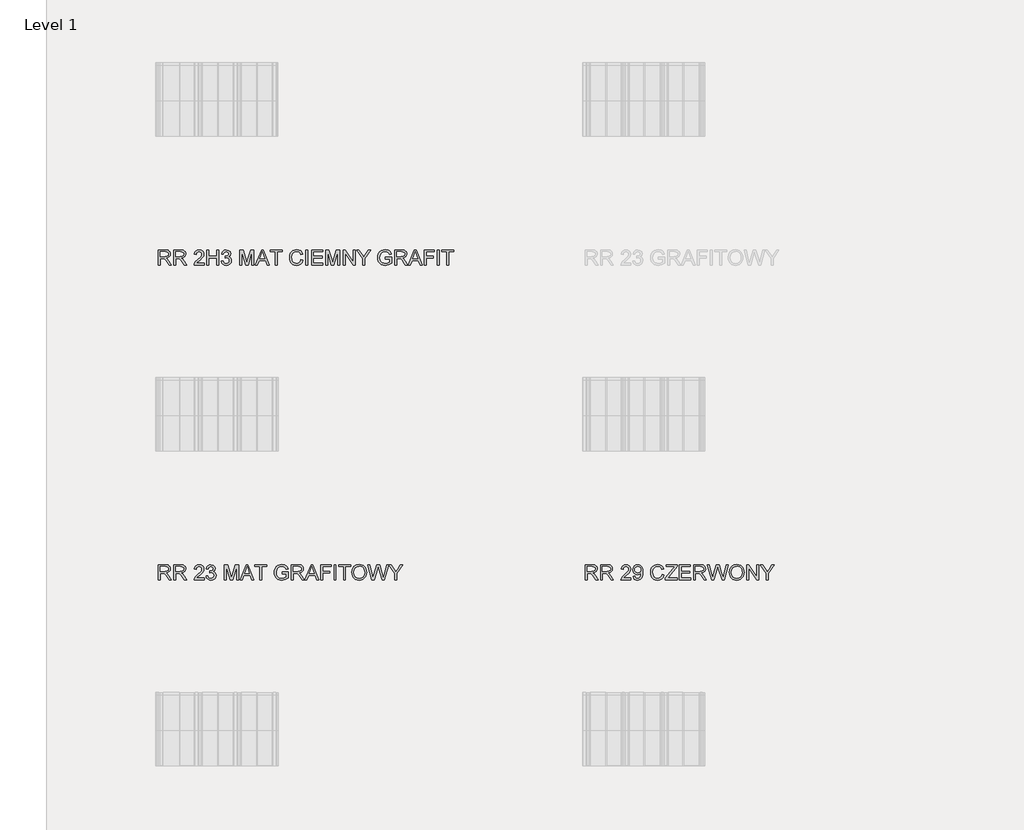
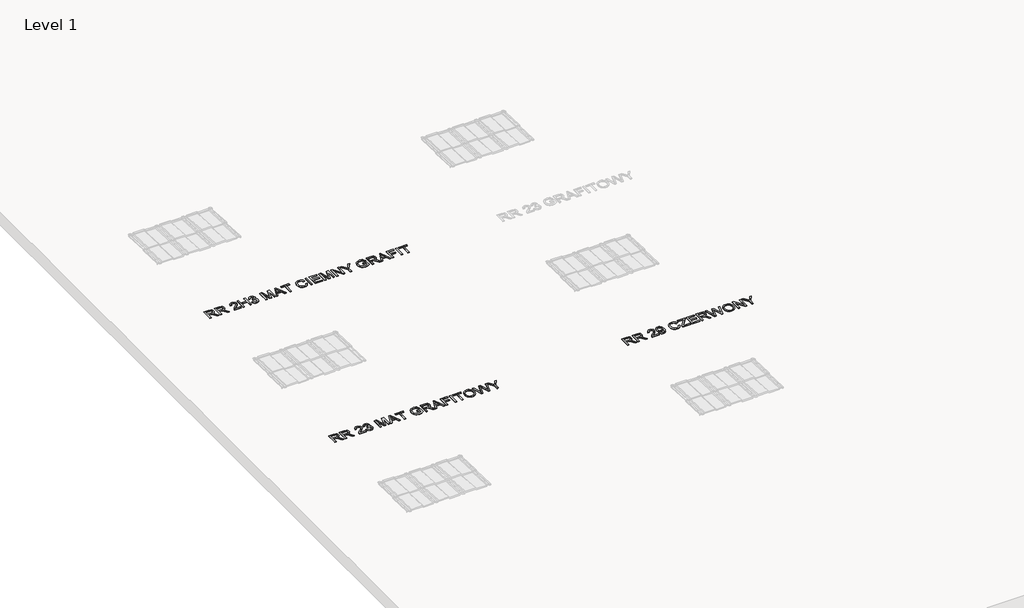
# One storey, part 5 of 10: 3 proxies.
"""IFC4 building model written with IfcOpenShell, lengths in millimetres."""

from ifc_helpers import new_model, si_unit, frame, origin, place, context, project, spatial, polyline, outline, extrude, element, save

model = new_model("IFC4")

# Units and contexts
model_context = context("Model", 3, world=origin())
ifc_project = project(units=[si_unit("LENGTHUNIT", "METRE", prefix="MILLI")], contexts=[model_context])

# Site, building, storey
site = spatial("IfcSite", under=ifc_project)
building = spatial("IfcBuilding", under=site)
storey = spatial("IfcBuildingStorey", under=building, Name="Level 1", Elevation=0.0)

# Proxies
placement = place(None, origin())
element("IfcBuildingElementProxy", 1, Name="150 Blue", ObjectType="150 Blue", at=placement, inside=storey, context=model_context, shape_type="SweptSolid", body=[
    extrude(outline(polyline([(-8736.4118342, -1635.6514112), (-8736.4118342, -1484.966946), (-8671.4806621, -1484.966946), (-8641.3327325, -1489.032042), (-8632.0529092, -1494.6606365), (-8624.8516192, -1503.416228), (-8620.2301016, -1514.2733454), (-8618.6895957, -1526.2065176), (-8621.2417771, -1541.0505561), (-8628.8983211, -1553.3562089), (-8641.8891541, -1562.3785148), (-8660.4442022, -1567.3725129), (-8649.7388361, -1575.4291286), (-8634.4717333, -1594.8165097), (-8609.3453931, -1635.6514112), (-8631.2343718, -1635.6514112), (-8650.8424821, -1604.4182298), (-8665.0059389, -1583.7432617), (-8674.9571469, -1573.9759947), (-8683.9150735, -1570.3891452), (-8694.8411687, -1569.7269577), (-8717.576276, -1569.7269577), (-8717.576276, -1635.6514112), (-8736.4118342, -1635.6514112)]), holes=[polyline([(-8717.576276, -1550.8913995), (-8675.4169994, -1550.8913995), (-8653.9142968, -1548.224255), (-8641.7006145, -1539.6893927), (-8637.5251539, -1526.9054934), (-8639.5163152, -1517.7176406), (-8645.4897991, -1510.3140154), (-8655.7675023, -1505.4303819), (-8670.6713217, -1503.8025041), (-8717.576276, -1503.8025041), (-8717.576276, -1550.8913995)])]), frame((0.0, 0.0, 600.0), z_axis=(0.0, 0.0, 1.0), x_axis=(1.0, 0.0, 0.0)), (0.0, 0.0, 1.0), 10.0),
    extrude(outline(polyline([(-8585.727369, -1635.6514112), (-8585.727369, -1484.966946), (-8520.7961968, -1484.966946), (-8490.6482673, -1489.032042), (-8481.368444, -1494.6606365), (-8474.1671539, -1503.416228), (-8469.5456364, -1514.2733454), (-8468.0051305, -1526.2065176), (-8470.5573119, -1541.0505561), (-8478.2138559, -1553.3562089), (-8491.2046888, -1562.3785148), (-8509.759737, -1567.3725129), (-8499.0543709, -1575.4291286), (-8483.7872681, -1594.8165097), (-8458.6609278, -1635.6514112), (-8480.5499066, -1635.6514112), (-8500.1580169, -1604.4182298), (-8514.3214737, -1583.7432617), (-8524.2726817, -1573.9759947), (-8533.2306083, -1570.3891452), (-8544.1567035, -1569.7269577), (-8566.8918108, -1569.7269577), (-8566.8918108, -1635.6514112), (-8585.727369, -1635.6514112)]), holes=[polyline([(-8566.8918108, -1550.8913995), (-8524.7325342, -1550.8913995), (-8503.2298316, -1548.224255), (-8491.0161493, -1539.6893927), (-8486.8406887, -1526.9054934), (-8488.83185, -1517.7176406), (-8494.8053339, -1510.3140154), (-8505.0830371, -1505.4303819), (-8519.9868564, -1503.8025041), (-8566.8918108, -1503.8025041), (-8566.8918108, -1550.8913995)])]), frame((0.0, 0.0, 600.0), z_axis=(0.0, 0.0, 1.0), x_axis=(1.0, 0.0, 0.0)), (0.0, 0.0, 1.0), 10.0),
    extrude(outline(polyline([(-8286.7128833, -1616.815853), (-8286.7128833, -1635.6514112), (-8385.5995636, -1635.6514112), (-8383.5762126, -1622.6651768), (-8372.1166885, -1602.6707903), (-8348.5170585, -1580.8369939), (-8316.0146842, -1549.4566597), (-8309.9308357, -1538.6409291), (-8307.9028862, -1528.119504), (-8309.8204711, -1518.6879293), (-8315.5732258, -1510.8474443), (-8324.4161893, -1505.5637392), (-8335.6044005, -1503.8025041), (-8347.3536317, -1505.5223524), (-8356.4817037, -1510.6818974), (-8362.3724141, -1518.8764689), (-8364.4095607, -1529.7013966), (-8383.2451188, -1527.3469518), (-8378.6787836, -1509.127596), (-8368.8057505, -1495.8194648), (-8354.1410545, -1487.6800757), (-8335.1997303, -1484.966946), (-8316.1204503, -1487.9835783), (-8301.4833454, -1497.0334754), (-8292.1713324, -1510.5531387), (-8289.0673281, -1526.9790698), (-8292.4150542, -1544.8397407), (-8303.5434846, -1563.3074168), (-8330.5276289, -1589.1143388), (-8352.1958784, -1607.2325271), (-8360.6939525, -1616.815853), (-8286.7128833, -1616.815853)])), frame((0.0, 0.0, 600.0), z_axis=(0.0, 0.0, 1.0), x_axis=(1.0, 0.0, 0.0)), (0.0, 0.0, 1.0), 10.0),
    extrude(outline(polyline([(-8260.8139908, -1635.6514112), (-8260.8139908, -1484.966946), (-8241.9784327, -1484.966946), (-8241.9784327, -1546.18251), (-8161.9273105, -1546.18251), (-8161.9273105, -1484.966946), (-8143.0917524, -1484.966946), (-8143.0917524, -1635.6514112), (-8161.9273105, -1635.6514112), (-8161.9273105, -1565.0180681), (-8241.9784327, -1565.0180681), (-8241.9784327, -1635.6514112), (-8260.8139908, -1635.6514112)])), frame((0.0, 0.0, 600.0), z_axis=(0.0, 0.0, 1.0), x_axis=(1.0, 0.0, 0.0)), (0.0, 0.0, 1.0), 10.0),
    extrude(outline(polyline([(-8117.1928599, -1595.6258501), (-8098.3573018, -1593.2714053), (-8094.1404544, -1605.1080085), (-8087.9646354, -1613.1002449), (-8079.5263421, -1617.6527846), (-8068.522072, -1619.1702978), (-8055.6094139, -1617.0825675), (-8045.6398119, -1610.8193765), (-8039.2662563, -1601.4751738), (-8037.1417378, -1590.1444084), (-8039.2478622, -1579.3884586), (-8045.5662355, -1570.6650567), (-8055.1311673, -1564.8847109), (-8066.9769676, -1562.9579289), (-8080.1839312, -1565.0180681), (-8078.0870038, -1546.18251), (-8075.0703715, -1546.4032392), (-8053.6964276, -1540.9953738), (-8046.5779109, -1534.1343746), (-8044.2050721, -1524.3671076), (-8045.9249204, -1516.232317), (-8051.0844654, -1509.6334337), (-8058.9571401, -1505.2602365), (-8068.8163776, -1503.8025041), (-8078.6940091, -1505.2740321), (-8086.7690189, -1509.688616), (-8092.6643279, -1517.0462559), (-8096.002857, -1527.3469518), (-8114.8384152, -1524.992507), (-8109.2925941, -1508.0791323), (-8099.4241596, -1495.4515828), (-8085.9228903, -1487.5881052), (-8069.4785651, -1484.966946), (-8046.7618519, -1490.135688), (-8030.8693498, -1504.2623566), (-8025.3695139, -1523.2634617), (-8030.5934383, -1540.6274918), (-8046.0444821, -1553.0986915), (-8034.2538641, -1557.8627633), (-8025.5166667, -1565.9745613), (-8020.1088014, -1576.9926271), (-8018.3061796, -1590.4755022), (-8021.9114232, -1608.8328137), (-8032.7271538, -1624.1734929), (-8049.0519174, -1634.5477652), (-8069.1842596, -1638.005856), (-8087.3944183, -1635.0536029), (-8102.2200627, -1626.1968439), (-8112.5299556, -1612.6495894), (-8117.1928599, -1595.6258501)])), frame((0.0, 0.0, 600.0), z_axis=(0.0, 0.0, 1.0), x_axis=(1.0, 0.0, 0.0)), (0.0, 0.0, 1.0), 10.0),
    extrude(outline(polyline([(-7935.9006127, -1635.6514112), (-7935.9006127, -1484.966946), (-7903.6005735, -1484.966946), (-7872.6984859, -1591.174478), (-7866.444492, -1613.3577623), (-7859.7122515, -1589.335068), (-7829.3987751, -1484.966946), (-7796.9883713, -1484.966946), (-7796.9883713, -1635.6514112), (-7815.8239295, -1635.6514112), (-7815.8239295, -1503.8025041), (-7853.6789868, -1635.6514112), (-7879.173209, -1635.6514112), (-7917.0650545, -1503.8025041), (-7917.0650545, -1635.6514112), (-7935.9006127, -1635.6514112)])), frame((0.0, 0.0, 600.0), z_axis=(0.0, 0.0, 1.0), x_axis=(1.0, 0.0, 0.0)), (0.0, 0.0, 1.0), 10.0),
    extrude(outline(polyline([(-7781.5373275, -1635.6514112), (-7721.3886213, -1484.966946), (-7705.3489663, -1484.966946), (-7645.2370483, -1635.6514112), (-7665.1394642, -1635.6514112), (-7682.3563416, -1588.5625158), (-7744.4548224, -1588.5625158), (-7761.6716998, -1635.6514112), (-7781.5373275, -1635.6514112)]), holes=[polyline([(-7737.5386409, -1569.7269577), (-7689.2357349, -1569.7269577), (-7702.8473688, -1532.6812407), (-7713.405582, -1503.8025041), (-7722.7865729, -1529.4438792), (-7737.5386409, -1569.7269577)])]), frame((0.0, 0.0, 600.0), z_axis=(0.0, 0.0, 1.0), x_axis=(1.0, 0.0, 0.0)), (0.0, 0.0, 1.0), 10.0),
    extrude(outline(polyline([(-7587.4427869, -1635.6514112), (-7587.4427869, -1503.8025041), (-7636.886127, -1503.8025041), (-7636.886127, -1484.966946), (-7519.1638886, -1484.966946), (-7519.1638886, -1503.8025041), (-7568.6072287, -1503.8025041), (-7568.6072287, -1635.6514112), (-7587.4427869, -1635.6514112)])), frame((0.0, 0.0, 600.0), z_axis=(0.0, 0.0, 1.0), x_axis=(1.0, 0.0, 0.0)), (0.0, 0.0, 1.0), 10.0),
    extrude(outline(polyline([(-7333.1627518, -1582.0877927), (-7314.3271936, -1586.943835), (-7323.0184058, -1608.8925946), (-7336.6576308, -1624.927651), (-7354.5734839, -1634.7363047), (-7376.0945806, -1638.005856), (-7397.9421726, -1635.5318495), (-7415.2924072, -1628.1098303), (-7428.5913413, -1615.9973156), (-7438.2850319, -1599.4518229), (-7444.2033335, -1580.0000624), (-7446.1761007, -1559.1687444), (-7443.9458161, -1537.1969922), (-7437.2549623, -1518.2234783), (-7426.4530273, -1502.8506095), (-7411.8894988, -1491.6807924), (-7394.6174391, -1484.879574), (-7375.6899104, -1482.6125012), (-7355.0379349, -1485.5463601), (-7337.9636118, -1494.3479368), (-7325.00037, -1508.4746055), (-7316.6816384, -1527.38374), (-7335.5171966, -1531.8719003), (-7342.047102, -1518.1361064), (-7350.9682404, -1508.7137288), (-7362.3909763, -1503.2644767), (-7376.4256744, -1501.4480593), (-7392.6032852, -1503.4622133), (-7405.8930222, -1509.504675), (-7415.9775874, -1518.9408482), (-7422.5396825, -1531.1361364), (-7427.3405426, -1559.1319562), (-7425.9195984, -1576.5327746), (-7421.6567657, -1591.5791482), (-7414.3910963, -1603.6962614), (-7403.9616418, -1612.3092986), (-7391.4582525, -1617.455048), (-7377.9707788, -1619.1702978), (-7362.248422, -1616.8342471), (-7349.1472245, -1609.8260951), (-7339.2557973, -1598.2194182), (-7333.1627518, -1582.0877927)])), frame((0.0, 0.0, 600.0), z_axis=(0.0, 0.0, 1.0), x_axis=(1.0, 0.0, 0.0)), (0.0, 0.0, 1.0), 10.0),
    extrude(outline(polyline([(-7286.0738564, -1635.6514112), (-7286.0738564, -1484.966946), (-7267.2382983, -1484.966946), (-7267.2382983, -1635.6514112), (-7286.0738564, -1635.6514112)])), frame((0.0, 0.0, 600.0), z_axis=(0.0, 0.0, 1.0), x_axis=(1.0, 0.0, 0.0)), (0.0, 0.0, 1.0), 10.0),
    extrude(outline(polyline([(-7229.567182, -1635.6514112), (-7229.567182, -1484.966946), (-7121.2627226, -1484.966946), (-7121.2627226, -1503.8025041), (-7210.7316238, -1503.8025041), (-7210.7316238, -1548.5369547), (-7125.9716121, -1548.5369547), (-7125.9716121, -1567.3725129), (-7210.7316238, -1567.3725129), (-7210.7316238, -1616.815853), (-7118.9082778, -1616.815853), (-7118.9082778, -1635.6514112), (-7229.567182, -1635.6514112)])), frame((0.0, 0.0, 600.0), z_axis=(0.0, 0.0, 1.0), x_axis=(1.0, 0.0, 0.0)), (0.0, 0.0, 1.0), 10.0),
    extrude(outline(polyline([(-7090.6549406, -1635.6514112), (-7090.6549406, -1484.966946), (-7058.3549014, -1484.966946), (-7027.4528138, -1591.174478), (-7021.1988199, -1613.3577623), (-7014.4665794, -1589.335068), (-6984.153103, -1484.966946), (-6951.7426992, -1484.966946), (-6951.7426992, -1635.6514112), (-6970.5782574, -1635.6514112), (-6970.5782574, -1503.8025041), (-7008.4333147, -1635.6514112), (-7033.9275369, -1635.6514112), (-7071.8193824, -1503.8025041), (-7071.8193824, -1635.6514112), (-7090.6549406, -1635.6514112)])), frame((0.0, 0.0, 600.0), z_axis=(0.0, 0.0, 1.0), x_axis=(1.0, 0.0, 0.0)), (0.0, 0.0, 1.0), 10.0),
    extrude(outline(polyline([(-6918.7804724, -1635.6514112), (-6918.7804724, -1484.966946), (-6898.6205391, -1484.966946), (-6819.8937921, -1604.3446534), (-6819.8937921, -1484.966946), (-6801.058234, -1484.966946), (-6801.058234, -1635.6514112), (-6821.2181673, -1635.6514112), (-6899.9449143, -1516.2369156), (-6899.9449143, -1635.6514112), (-6918.7804724, -1635.6514112)])), frame((0.0, 0.0, 600.0), z_axis=(0.0, 0.0, 1.0), x_axis=(1.0, 0.0, 0.0)), (0.0, 0.0, 1.0), 10.0),
    extrude(outline(polyline([(-6725.7160014, -1635.6514112), (-6725.7160014, -1571.823885), (-6784.5771206, -1484.966946), (-6762.3938363, -1484.966946), (-6730.9767139, -1531.3568656), (-6714.9002707, -1555.048466), (-6698.7502511, -1529.6646084), (-6670.2393965, -1484.966946), (-6648.019324, -1484.966946), (-6706.8804432, -1571.823885), (-6706.8804432, -1635.6514112), (-6725.7160014, -1635.6514112)])), frame((0.0, 0.0, 600.0), z_axis=(0.0, 0.0, 1.0), x_axis=(1.0, 0.0, 0.0)), (0.0, 0.0, 1.0), 10.0),
    extrude(outline(polyline([(-6502.0437483, -1576.790292), (-6502.0437483, -1557.9547338), (-6440.8281843, -1557.9547338), (-6440.8281843, -1614.2774673), (-6471.0496902, -1632.0461676), (-6503.0002415, -1638.005856), (-6524.1304636, -1635.6376156), (-6543.2281377, -1628.5328946), (-6559.0930487, -1616.9400132), (-6570.5249817, -1601.1072918), (-6577.4365647, -1582.1153838), (-6579.7404257, -1561.0449426), (-6577.4457617, -1539.82275), (-6570.5617699, -1520.0812824), (-6559.3735587, -1503.5219941), (-6544.1662367, -1491.8463393), (-6525.6433783, -1484.9209607), (-6504.5085577, -1482.6125012), (-6475.0412099, -1487.9651842), (-6463.2919786, -1494.3663309), (-6454.3846358, -1502.864405), (-6442.9986881, -1527.7884102), (-6460.3627182, -1532.6812407), (-6468.9527628, -1515.2620283), (-6483.6312544, -1505.2188498), (-6504.8028633, -1501.4480593), (-6528.917528, -1505.5131554), (-6545.325065, -1516.1817333), (-6555.0187556, -1530.694678), (-6560.9048675, -1560.2723904), (-6559.1344354, -1578.2848126), (-6553.8231391, -1593.1058584), (-6545.131927, -1604.6297619), (-6533.2217474, -1612.750757), (-6519.2836183, -1617.5654126), (-6504.5085577, -1619.1702978), (-6478.7384239, -1614.3326496), (-6459.6637425, -1604.0135596), (-6459.6637425, -1576.790292), (-6502.0437483, -1576.790292)])), frame((0.0, 0.0, 600.0), z_axis=(0.0, 0.0, 1.0), x_axis=(1.0, 0.0, 0.0)), (0.0, 0.0, 1.0), 10.0),
    extrude(outline(polyline([(-6410.2204023, -1635.6514112), (-6410.2204023, -1484.966946), (-6345.2892302, -1484.966946), (-6315.1413006, -1489.032042), (-6305.8614773, -1494.6606365), (-6298.6601873, -1503.416228), (-6294.0386697, -1514.2733454), (-6292.4981638, -1526.2065176), (-6295.0503452, -1541.0505561), (-6302.7068892, -1553.3562089), (-6315.6977222, -1562.3785148), (-6334.2527703, -1567.3725129), (-6323.5474042, -1575.4291286), (-6308.2803014, -1594.8165097), (-6283.1539612, -1635.6514112), (-6305.0429399, -1635.6514112), (-6324.6510502, -1604.4182298), (-6338.814507, -1583.7432617), (-6348.765715, -1573.9759947), (-6357.7236416, -1570.3891452), (-6368.6497368, -1569.7269577), (-6391.3848441, -1569.7269577), (-6391.3848441, -1635.6514112), (-6410.2204023, -1635.6514112)]), holes=[polyline([(-6391.3848441, -1550.8913995), (-6349.2255675, -1550.8913995), (-6327.7228649, -1548.224255), (-6315.5091826, -1539.6893927), (-6311.333722, -1526.9054934), (-6313.3248833, -1517.7176406), (-6319.2983672, -1510.3140154), (-6329.5760704, -1505.4303819), (-6344.4798898, -1503.8025041), (-6391.3848441, -1503.8025041), (-6391.3848441, -1550.8913995)])]), frame((0.0, 0.0, 600.0), z_axis=(0.0, 0.0, 1.0), x_axis=(1.0, 0.0, 0.0)), (0.0, 0.0, 1.0), 10.0),
    extrude(outline(polyline([(-6277.04712, -1635.6514112), (-6216.8984138, -1484.966946), (-6200.8587588, -1484.966946), (-6140.7468408, -1635.6514112), (-6160.6492568, -1635.6514112), (-6177.8661341, -1588.5625158), (-6239.9646149, -1588.5625158), (-6257.1814923, -1635.6514112), (-6277.04712, -1635.6514112)]), holes=[polyline([(-6233.0484334, -1569.7269577), (-6184.7455275, -1569.7269577), (-6198.3571613, -1532.6812407), (-6208.9153745, -1503.8025041), (-6218.2963654, -1529.4438792), (-6233.0484334, -1569.7269577)])]), frame((0.0, 0.0, 600.0), z_axis=(0.0, 0.0, 1.0), x_axis=(1.0, 0.0, 0.0)), (0.0, 0.0, 1.0), 10.0),
    extrude(outline(polyline([(-6120.6236957, -1635.6514112), (-6120.6236957, -1484.966946), (-6019.3825706, -1484.966946), (-6019.3825706, -1503.8025041), (-6101.7881375, -1503.8025041), (-6101.7881375, -1548.5369547), (-6031.1547945, -1548.5369547), (-6031.1547945, -1567.3725129), (-6101.7881375, -1567.3725129), (-6101.7881375, -1635.6514112), (-6120.6236957, -1635.6514112)])), frame((0.0, 0.0, 600.0), z_axis=(0.0, 0.0, 1.0), x_axis=(1.0, 0.0, 0.0)), (0.0, 0.0, 1.0), 10.0),
    extrude(outline(polyline([(-5991.1292334, -1635.6514112), (-5991.1292334, -1484.966946), (-5972.2936752, -1484.966946), (-5972.2936752, -1635.6514112), (-5991.1292334, -1635.6514112)])), frame((0.0, 0.0, 600.0), z_axis=(0.0, 0.0, 1.0), x_axis=(1.0, 0.0, 0.0)), (0.0, 0.0, 1.0), 10.0),
    extrude(outline(polyline([(-5896.9514426, -1635.6514112), (-5896.9514426, -1503.8025041), (-5946.3947828, -1503.8025041), (-5946.3947828, -1484.966946), (-5828.6725443, -1484.966946), (-5828.6725443, -1503.8025041), (-5878.1158845, -1503.8025041), (-5878.1158845, -1635.6514112), (-5896.9514426, -1635.6514112)])), frame((0.0, 0.0, 600.0), z_axis=(0.0, 0.0, 1.0), x_axis=(1.0, 0.0, 0.0)), (0.0, 0.0, 1.0), 10.0),
])
element("IfcBuildingElementProxy", 2, Name="150 Blue", ObjectType="150 Blue", at=placement, inside=storey, context=model_context, shape_type="SweptSolid", body=[
    extrude(outline(polyline([(-8736.4118342, -4735.6514112), (-8736.4118342, -4584.966946), (-8671.4806621, -4584.966946), (-8641.3327325, -4589.032042), (-8632.0529092, -4594.6606365), (-8624.8516192, -4603.416228), (-8620.2301016, -4614.2733454), (-8618.6895957, -4626.2065176), (-8621.2417771, -4641.0505561), (-8628.8983211, -4653.3562089), (-8641.8891541, -4662.3785148), (-8660.4442022, -4667.3725129), (-8649.7388361, -4675.4291286), (-8634.4717333, -4694.8165097), (-8609.3453931, -4735.6514112), (-8631.2343718, -4735.6514112), (-8650.8424821, -4704.4182298), (-8665.0059389, -4683.7432617), (-8674.9571469, -4673.9759947), (-8683.9150735, -4670.3891452), (-8694.8411687, -4669.7269577), (-8717.576276, -4669.7269577), (-8717.576276, -4735.6514112), (-8736.4118342, -4735.6514112)]), holes=[polyline([(-8717.576276, -4650.8913995), (-8675.4169994, -4650.8913995), (-8653.9142968, -4648.224255), (-8641.7006145, -4639.6893927), (-8637.5251539, -4626.9054934), (-8639.5163152, -4617.7176406), (-8645.4897991, -4610.3140154), (-8655.7675023, -4605.4303819), (-8670.6713217, -4603.8025041), (-8717.576276, -4603.8025041), (-8717.576276, -4650.8913995)])]), frame((0.0, 0.0, 600.0), z_axis=(0.0, 0.0, 1.0), x_axis=(1.0, 0.0, 0.0)), (0.0, 0.0, 1.0), 10.0),
    extrude(outline(polyline([(-8585.727369, -4735.6514112), (-8585.727369, -4584.966946), (-8520.7961968, -4584.966946), (-8490.6482673, -4589.032042), (-8481.368444, -4594.6606365), (-8474.1671539, -4603.416228), (-8469.5456364, -4614.2733454), (-8468.0051305, -4626.2065176), (-8470.5573119, -4641.0505561), (-8478.2138559, -4653.3562089), (-8491.2046888, -4662.3785148), (-8509.759737, -4667.3725129), (-8499.0543709, -4675.4291286), (-8483.7872681, -4694.8165097), (-8458.6609278, -4735.6514112), (-8480.5499066, -4735.6514112), (-8500.1580169, -4704.4182298), (-8514.3214737, -4683.7432617), (-8524.2726817, -4673.9759947), (-8533.2306083, -4670.3891452), (-8544.1567035, -4669.7269577), (-8566.8918108, -4669.7269577), (-8566.8918108, -4735.6514112), (-8585.727369, -4735.6514112)]), holes=[polyline([(-8566.8918108, -4650.8913995), (-8524.7325342, -4650.8913995), (-8503.2298316, -4648.224255), (-8491.0161493, -4639.6893927), (-8486.8406887, -4626.9054934), (-8488.83185, -4617.7176406), (-8494.8053339, -4610.3140154), (-8505.0830371, -4605.4303819), (-8519.9868564, -4603.8025041), (-8566.8918108, -4603.8025041), (-8566.8918108, -4650.8913995)])]), frame((0.0, 0.0, 600.0), z_axis=(0.0, 0.0, 1.0), x_axis=(1.0, 0.0, 0.0)), (0.0, 0.0, 1.0), 10.0),
    extrude(outline(polyline([(-8286.7128833, -4716.815853), (-8286.7128833, -4735.6514112), (-8385.5995636, -4735.6514112), (-8383.5762126, -4722.6651768), (-8372.1166885, -4702.6707903), (-8348.5170585, -4680.8369939), (-8316.0146842, -4649.4566597), (-8309.9308357, -4638.6409291), (-8307.9028862, -4628.119504), (-8309.8204711, -4618.6879293), (-8315.5732258, -4610.8474443), (-8324.4161893, -4605.5637392), (-8335.6044005, -4603.8025041), (-8347.3536317, -4605.5223524), (-8356.4817037, -4610.6818974), (-8362.3724141, -4618.8764689), (-8364.4095607, -4629.7013966), (-8383.2451188, -4627.3469518), (-8378.6787836, -4609.127596), (-8368.8057505, -4595.8194648), (-8354.1410545, -4587.6800757), (-8335.1997303, -4584.966946), (-8316.1204503, -4587.9835783), (-8301.4833454, -4597.0334754), (-8292.1713324, -4610.5531387), (-8289.0673281, -4626.9790698), (-8292.4150542, -4644.8397407), (-8303.5434846, -4663.3074168), (-8330.5276289, -4689.1143388), (-8352.1958784, -4707.2325271), (-8360.6939525, -4716.815853), (-8286.7128833, -4716.815853)])), frame((0.0, 0.0, 600.0), z_axis=(0.0, 0.0, 1.0), x_axis=(1.0, 0.0, 0.0)), (0.0, 0.0, 1.0), 10.0),
    extrude(outline(polyline([(-8267.8773251, -4695.6258501), (-8249.041767, -4693.2714053), (-8244.8249196, -4705.1080085), (-8238.6491006, -4713.1002449), (-8230.2108074, -4717.6527846), (-8219.2065372, -4719.1702978), (-8206.2938792, -4717.0825675), (-8196.3242771, -4710.8193765), (-8189.9507215, -4701.4751738), (-8187.826203, -4690.1444084), (-8189.9323274, -4679.3884586), (-8196.2507007, -4670.6650567), (-8205.8156326, -4664.8847109), (-8217.6614328, -4662.9579289), (-8230.8683964, -4665.0180681), (-8228.7714691, -4646.18251), (-8225.7548367, -4646.4032392), (-8204.3808928, -4640.9953738), (-8197.2623762, -4634.1343746), (-8194.8895373, -4624.3671076), (-8196.6093856, -4616.232317), (-8201.7689306, -4609.6334337), (-8209.6416053, -4605.2602365), (-8219.5008428, -4603.8025041), (-8229.3784744, -4605.2740321), (-8237.4534841, -4609.688616), (-8243.3487931, -4617.0462559), (-8246.6873222, -4627.3469518), (-8265.5228804, -4624.992507), (-8259.9770593, -4608.0791323), (-8250.1086248, -4595.4515828), (-8236.6073556, -4587.5881052), (-8220.1630304, -4584.966946), (-8197.4463172, -4590.135688), (-8181.553815, -4604.2623566), (-8176.0539791, -4623.2634617), (-8181.2779035, -4640.6274918), (-8196.7289473, -4653.0986915), (-8184.9383293, -4657.8627633), (-8176.2011319, -4665.9745613), (-8170.7932666, -4676.9926271), (-8168.9906448, -4690.4755022), (-8172.5958884, -4708.8328137), (-8183.4116191, -4724.1734929), (-8199.7363826, -4734.5477652), (-8219.8687248, -4738.005856), (-8238.0788835, -4735.0536029), (-8252.9045279, -4726.1968439), (-8263.2144209, -4712.6495894), (-8267.8773251, -4695.6258501)])), frame((0.0, 0.0, 600.0), z_axis=(0.0, 0.0, 1.0), x_axis=(1.0, 0.0, 0.0)), (0.0, 0.0, 1.0), 10.0),
    extrude(outline(polyline([(-8086.5850779, -4735.6514112), (-8086.5850779, -4584.966946), (-8054.2850387, -4584.966946), (-8023.3829512, -4691.174478), (-8017.1289572, -4713.3577623), (-8010.3967167, -4689.335068), (-7980.0832403, -4584.966946), (-7947.6728365, -4584.966946), (-7947.6728365, -4735.6514112), (-7966.5083947, -4735.6514112), (-7966.5083947, -4603.8025041), (-8004.363452, -4735.6514112), (-8029.8576743, -4735.6514112), (-8067.7495198, -4603.8025041), (-8067.7495198, -4735.6514112), (-8086.5850779, -4735.6514112)])), frame((0.0, 0.0, 600.0), z_axis=(0.0, 0.0, 1.0), x_axis=(1.0, 0.0, 0.0)), (0.0, 0.0, 1.0), 10.0),
    extrude(outline(polyline([(-7932.2217927, -4735.6514112), (-7872.0730865, -4584.966946), (-7856.0334315, -4584.966946), (-7795.9215135, -4735.6514112), (-7815.8239295, -4735.6514112), (-7833.0408068, -4688.5625158), (-7895.1392876, -4688.5625158), (-7912.356165, -4735.6514112), (-7932.2217927, -4735.6514112)]), holes=[polyline([(-7888.2231061, -4669.7269577), (-7839.9202002, -4669.7269577), (-7853.531834, -4632.6812407), (-7864.0900472, -4603.8025041), (-7873.4710381, -4629.4438792), (-7888.2231061, -4669.7269577)])]), frame((0.0, 0.0, 600.0), z_axis=(0.0, 0.0, 1.0), x_axis=(1.0, 0.0, 0.0)), (0.0, 0.0, 1.0), 10.0),
    extrude(outline(polyline([(-7738.1272521, -4735.6514112), (-7738.1272521, -4603.8025041), (-7787.5705922, -4603.8025041), (-7787.5705922, -4584.966946), (-7669.8483538, -4584.966946), (-7669.8483538, -4603.8025041), (-7719.2916939, -4603.8025041), (-7719.2916939, -4735.6514112), (-7738.1272521, -4735.6514112)])), frame((0.0, 0.0, 600.0), z_axis=(0.0, 0.0, 1.0), x_axis=(1.0, 0.0, 0.0)), (0.0, 0.0, 1.0), 10.0),
    extrude(outline(polyline([(-7519.1638886, -4676.790292), (-7519.1638886, -4657.9547338), (-7457.9483246, -4657.9547338), (-7457.9483246, -4714.2774673), (-7488.1698305, -4732.0461676), (-7520.1203817, -4738.005856), (-7541.2506038, -4735.6376156), (-7560.3482779, -4728.5328946), (-7576.213189, -4716.9400132), (-7587.645122, -4701.1072918), (-7594.5567049, -4682.1153838), (-7596.8605659, -4661.0449426), (-7594.565902, -4639.82275), (-7587.6819102, -4620.0812824), (-7576.493699, -4603.5219941), (-7561.286377, -4591.8463393), (-7542.7635186, -4584.9209607), (-7521.6286979, -4582.6125012), (-7492.1613501, -4587.9651842), (-7480.4121189, -4594.3663309), (-7471.5047761, -4602.864405), (-7460.1188283, -4627.7884102), (-7477.4828585, -4632.6812407), (-7486.0729031, -4615.2620283), (-7500.7513947, -4605.2188498), (-7521.9230035, -4601.4480593), (-7546.0376683, -4605.5131554), (-7562.4452053, -4616.1817333), (-7572.1388959, -4630.694678), (-7578.0250078, -4660.2723904), (-7576.2545757, -4678.2848126), (-7570.9432794, -4693.1058584), (-7562.2520672, -4704.6297619), (-7550.3418877, -4712.750757), (-7536.4037586, -4717.5654126), (-7521.6286979, -4719.1702978), (-7495.8585642, -4714.3326496), (-7476.7838827, -4704.0135596), (-7476.7838827, -4676.790292), (-7519.1638886, -4676.790292)])), frame((0.0, 0.0, 600.0), z_axis=(0.0, 0.0, 1.0), x_axis=(1.0, 0.0, 0.0)), (0.0, 0.0, 1.0), 10.0),
    extrude(outline(polyline([(-7427.3405426, -4735.6514112), (-7427.3405426, -4584.966946), (-7362.4093704, -4584.966946), (-7332.2614409, -4589.032042), (-7322.9816176, -4594.6606365), (-7315.7803275, -4603.416228), (-7311.15881, -4614.2733454), (-7309.6183041, -4626.2065176), (-7312.1704855, -4641.0505561), (-7319.8270295, -4653.3562089), (-7332.8178624, -4662.3785148), (-7351.3729106, -4667.3725129), (-7340.6675445, -4675.4291286), (-7325.4004417, -4694.8165097), (-7300.2741014, -4735.6514112), (-7322.1630801, -4735.6514112), (-7341.7711905, -4704.4182298), (-7355.9346473, -4683.7432617), (-7365.8858553, -4673.9759947), (-7374.8437819, -4670.3891452), (-7385.7698771, -4669.7269577), (-7408.5049844, -4669.7269577), (-7408.5049844, -4735.6514112), (-7427.3405426, -4735.6514112)]), holes=[polyline([(-7408.5049844, -4650.8913995), (-7366.3457078, -4650.8913995), (-7344.8430051, -4648.224255), (-7332.6293229, -4639.6893927), (-7328.4538623, -4626.9054934), (-7330.4450236, -4617.7176406), (-7336.4185075, -4610.3140154), (-7346.6962107, -4605.4303819), (-7361.60003, -4603.8025041), (-7408.5049844, -4603.8025041), (-7408.5049844, -4650.8913995)])]), frame((0.0, 0.0, 600.0), z_axis=(0.0, 0.0, 1.0), x_axis=(1.0, 0.0, 0.0)), (0.0, 0.0, 1.0), 10.0),
    extrude(outline(polyline([(-7294.1672603, -4735.6514112), (-7234.0185541, -4584.966946), (-7217.9788991, -4584.966946), (-7157.8669811, -4735.6514112), (-7177.769397, -4735.6514112), (-7194.9862744, -4688.5625158), (-7257.0847552, -4688.5625158), (-7274.3016326, -4735.6514112), (-7294.1672603, -4735.6514112)]), holes=[polyline([(-7250.1685737, -4669.7269577), (-7201.8656677, -4669.7269577), (-7215.4773015, -4632.6812407), (-7226.0355148, -4603.8025041), (-7235.4165057, -4629.4438792), (-7250.1685737, -4669.7269577)])]), frame((0.0, 0.0, 600.0), z_axis=(0.0, 0.0, 1.0), x_axis=(1.0, 0.0, 0.0)), (0.0, 0.0, 1.0), 10.0),
    extrude(outline(polyline([(-7137.743836, -4735.6514112), (-7137.743836, -4584.966946), (-7036.5027109, -4584.966946), (-7036.5027109, -4603.8025041), (-7118.9082778, -4603.8025041), (-7118.9082778, -4648.5369547), (-7048.2749347, -4648.5369547), (-7048.2749347, -4667.3725129), (-7118.9082778, -4667.3725129), (-7118.9082778, -4735.6514112), (-7137.743836, -4735.6514112)])), frame((0.0, 0.0, 600.0), z_axis=(0.0, 0.0, 1.0), x_axis=(1.0, 0.0, 0.0)), (0.0, 0.0, 1.0), 10.0),
    extrude(outline(polyline([(-7008.2493737, -4735.6514112), (-7008.2493737, -4584.966946), (-6989.4138155, -4584.966946), (-6989.4138155, -4735.6514112), (-7008.2493737, -4735.6514112)])), frame((0.0, 0.0, 600.0), z_axis=(0.0, 0.0, 1.0), x_axis=(1.0, 0.0, 0.0)), (0.0, 0.0, 1.0), 10.0),
    extrude(outline(polyline([(-6914.0715829, -4735.6514112), (-6914.0715829, -4603.8025041), (-6963.514923, -4603.8025041), (-6963.514923, -4584.966946), (-6845.7926846, -4584.966946), (-6845.7926846, -4603.8025041), (-6895.2360247, -4603.8025041), (-6895.2360247, -4735.6514112), (-6914.0715829, -4735.6514112)])), frame((0.0, 0.0, 600.0), z_axis=(0.0, 0.0, 1.0), x_axis=(1.0, 0.0, 0.0)), (0.0, 0.0, 1.0), 10.0),
    extrude(outline(polyline([(-6831.666016, -4662.2957413), (-6826.6444267, -4628.9748296), (-6820.3674402, -4615.356298), (-6811.579659, -4603.7657159), (-6788.5778373, -4587.9008049), (-6759.7450859, -4582.6125012), (-6739.9806257, -4585.0957047), (-6722.2579106, -4592.5453151), (-6707.5426308, -4604.4371006), (-6696.8004765, -4620.2468293), (-6690.2337829, -4639.2111462), (-6688.0448851, -4660.566696), (-6690.3487461, -4682.2073543), (-6697.260329, -4701.4383856), (-6708.3979564, -4717.2757055), (-6723.3799507, -4728.7352297), (-6740.9509145, -4735.6881994), (-6759.8554505, -4738.005856), (-6779.9234134, -4735.4444776), (-6797.747296, -4727.7603424), (-6812.4257876, -4715.6478277), (-6823.0575773, -4699.8013108), (-6829.5139063, -4681.5681594), (-6831.666016, -4662.2957413)]), holes=[polyline([(-6812.8304578, -4662.4796823), (-6809.0642659, -4686.0517212), (-6797.7656901, -4704.0135596), (-6780.7833375, -4715.3811133), (-6759.9658151, -4719.1702978), (-6738.8447901, -4715.3443251), (-6721.8348463, -4703.8664068), (-6710.619044, -4685.3527454), (-6706.8804432, -4660.4195432), (-6708.4807299, -4643.7452917), (-6713.2815899, -4629.3335146), (-6721.1588631, -4617.5474952), (-6731.9883894, -4608.750517), (-6745.0527987, -4603.2736737), (-6759.6347213, -4601.4480593), (-6779.8958222, -4604.9659309), (-6797.1218966, -4615.5195457), (-6808.9033175, -4634.295323), (-6812.8304578, -4662.4796823)])]), frame((0.0, 0.0, 600.0), z_axis=(0.0, 0.0, 1.0), x_axis=(1.0, 0.0, 0.0)), (0.0, 0.0, 1.0), 10.0),
    extrude(outline(polyline([(-6635.1802424, -4735.6514112), (-6676.2726612, -4584.966946), (-6656.8484919, -4584.966946), (-6633.0097386, -4684.0007791), (-6625.6520987, -4714.5717729), (-6617.779424, -4687.5324462), (-6587.907406, -4584.966946), (-6559.9115861, -4584.966946), (-6538.2065484, -4659.3158972), (-6522.0565288, -4714.5717729), (-6514.9196181, -4684.8836959), (-6490.8969238, -4584.966946), (-6471.4359663, -4584.966946), (-6512.491597, -4735.6514112), (-6532.6515303, -4735.6514112), (-6568.8143304, -4619.4007007), (-6573.8543138, -4603.1771047), (-6579.5196965, -4622.7116387), (-6612.445135, -4735.6514112), (-6635.1802424, -4735.6514112)])), frame((0.0, 0.0, 600.0), z_axis=(0.0, 0.0, 1.0), x_axis=(1.0, 0.0, 0.0)), (0.0, 0.0, 1.0), 10.0),
    extrude(outline(polyline([(-6410.2204023, -4735.6514112), (-6410.2204023, -4671.823885), (-6469.0815215, -4584.966946), (-6446.8982372, -4584.966946), (-6415.4811148, -4631.3568656), (-6399.4046716, -4655.048466), (-6383.2546521, -4629.6646084), (-6354.7437974, -4584.966946), (-6332.5237249, -4584.966946), (-6391.3848441, -4671.823885), (-6391.3848441, -4735.6514112), (-6410.2204023, -4735.6514112)])), frame((0.0, 0.0, 600.0), z_axis=(0.0, 0.0, 1.0), x_axis=(1.0, 0.0, 0.0)), (0.0, 0.0, 1.0), 10.0),
])
element("IfcBuildingElementProxy", 3, Name="150 Blue", ObjectType="150 Blue", at=placement, inside=storey, context=model_context, shape_type="SweptSolid", body=[
    extrude(outline(polyline([(-4536.4118342, -4735.6514112), (-4536.4118342, -4584.966946), (-4471.4806621, -4584.966946), (-4441.3327325, -4589.032042), (-4432.0529092, -4594.6606365), (-4424.8516192, -4603.416228), (-4420.2301016, -4614.2733454), (-4418.6895957, -4626.2065176), (-4421.2417771, -4641.0505561), (-4428.8983211, -4653.3562089), (-4441.8891541, -4662.3785148), (-4460.4442022, -4667.3725129), (-4449.7388361, -4675.4291286), (-4434.4717333, -4694.8165097), (-4409.3453931, -4735.6514112), (-4431.2343718, -4735.6514112), (-4450.8424821, -4704.4182298), (-4465.0059389, -4683.7432617), (-4474.9571469, -4673.9759947), (-4483.9150735, -4670.3891452), (-4494.8411687, -4669.7269577), (-4517.576276, -4669.7269577), (-4517.576276, -4735.6514112), (-4536.4118342, -4735.6514112)]), holes=[polyline([(-4517.576276, -4650.8913995), (-4475.4169994, -4650.8913995), (-4453.9142968, -4648.224255), (-4441.7006145, -4639.6893927), (-4437.5251539, -4626.9054934), (-4439.5163152, -4617.7176406), (-4445.4897991, -4610.3140154), (-4455.7675023, -4605.4303819), (-4470.6713217, -4603.8025041), (-4517.576276, -4603.8025041), (-4517.576276, -4650.8913995)])]), frame((0.0, 0.0, 600.0), z_axis=(0.0, 0.0, 1.0), x_axis=(1.0, 0.0, 0.0)), (0.0, 0.0, 1.0), 10.0),
    extrude(outline(polyline([(-4385.727369, -4735.6514112), (-4385.727369, -4584.966946), (-4320.7961968, -4584.966946), (-4290.6482673, -4589.032042), (-4281.368444, -4594.6606365), (-4274.1671539, -4603.416228), (-4269.5456364, -4614.2733454), (-4268.0051305, -4626.2065176), (-4270.5573119, -4641.0505561), (-4278.2138559, -4653.3562089), (-4291.2046888, -4662.3785148), (-4309.759737, -4667.3725129), (-4299.0543709, -4675.4291286), (-4283.7872681, -4694.8165097), (-4258.6609278, -4735.6514112), (-4280.5499066, -4735.6514112), (-4300.1580169, -4704.4182298), (-4314.3214737, -4683.7432617), (-4324.2726817, -4673.9759947), (-4333.2306083, -4670.3891452), (-4344.1567035, -4669.7269577), (-4366.8918108, -4669.7269577), (-4366.8918108, -4735.6514112), (-4385.727369, -4735.6514112)]), holes=[polyline([(-4366.8918108, -4650.8913995), (-4324.7325342, -4650.8913995), (-4303.2298316, -4648.224255), (-4291.0161493, -4639.6893927), (-4286.8406887, -4626.9054934), (-4288.83185, -4617.7176406), (-4294.8053339, -4610.3140154), (-4305.0830371, -4605.4303819), (-4319.9868564, -4603.8025041), (-4366.8918108, -4603.8025041), (-4366.8918108, -4650.8913995)])]), frame((0.0, 0.0, 600.0), z_axis=(0.0, 0.0, 1.0), x_axis=(1.0, 0.0, 0.0)), (0.0, 0.0, 1.0), 10.0),
    extrude(outline(polyline([(-4086.7128833, -4716.815853), (-4086.7128833, -4735.6514112), (-4185.5995636, -4735.6514112), (-4183.5762126, -4722.6651768), (-4172.1166885, -4702.6707903), (-4148.5170585, -4680.8369939), (-4116.0146842, -4649.4566597), (-4109.9308357, -4638.6409291), (-4107.9028862, -4628.119504), (-4109.8204711, -4618.6879293), (-4115.5732258, -4610.8474443), (-4124.4161893, -4605.5637392), (-4135.6044005, -4603.8025041), (-4147.3536317, -4605.5223524), (-4156.4817037, -4610.6818974), (-4162.3724141, -4618.8764689), (-4164.4095607, -4629.7013966), (-4183.2451188, -4627.3469518), (-4178.6787836, -4609.127596), (-4168.8057505, -4595.8194648), (-4154.1410545, -4587.6800757), (-4135.1997303, -4584.966946), (-4116.1204503, -4587.9835783), (-4101.4833454, -4597.0334754), (-4092.1713324, -4610.5531387), (-4089.0673281, -4626.9790698), (-4092.4150542, -4644.8397407), (-4103.5434846, -4663.3074168), (-4130.5276289, -4689.1143388), (-4152.1958784, -4707.2325271), (-4160.6939525, -4716.815853), (-4086.7128833, -4716.815853)])), frame((0.0, 0.0, 600.0), z_axis=(0.0, 0.0, 1.0), x_axis=(1.0, 0.0, 0.0)), (0.0, 0.0, 1.0), 10.0),
    extrude(outline(polyline([(-4065.5228804, -4697.9802949), (-4046.6873222, -4695.6258501), (-4043.4683548, -4706.3174206), (-4038.2260363, -4713.5968856), (-4031.0891256, -4717.7769447), (-4022.1863813, -4719.1702978), (-4006.9376726, -4715.5834484), (-3996.6001886, -4706.0001224), (-3990.4381652, -4689.6293736), (-3987.7158384, -4667.7771831), (-3987.826203, -4664.0983631), (-4002.8909707, -4678.3721845), (-4023.5475447, -4683.8536263), (-4040.7230354, -4680.5059001), (-4055.0198494, -4670.4627216), (-4064.6629562, -4654.9472985), (-4067.8773251, -4635.1828383), (-4064.5066064, -4614.7653876), (-4054.39445, -4598.7625208), (-4039.2055221, -4588.4158397), (-4020.6044888, -4584.966946), (-4006.5559951, -4586.9351146), (-3993.7674972, -4592.8396207), (-3983.0713282, -4602.3861584), (-3975.2998211, -4615.2804224), (-3970.5679389, -4633.104305), (-3968.9906448, -4657.439699), (-3970.5633404, -4683.2420225), (-3975.281427, -4703.1858251), (-3983.1035179, -4718.1724179), (-3993.9882264, -4729.1031117), (-4007.466503, -4735.7801699), (-4023.0692981, -4738.005856), (-4039.1733325, -4735.3800982), (-4052.0216112, -4727.502825), (-4061.0071289, -4714.870677), (-4065.5228804, -4697.9802949)]), holes=[polyline([(-3987.826203, -4634.7413799), (-3989.858751, -4621.9758747), (-3995.9563951, -4612.1534254), (-4005.4201594, -4605.8902344), (-4017.5510682, -4603.8025041), (-4030.1326324, -4606.0511828), (-4040.2125991, -4612.7972189), (-4046.834475, -4623.1209074), (-4049.041767, -4636.1025433), (-4046.9540367, -4647.7414099), (-4040.6908457, -4656.9798465), (-4030.8591994, -4663.0085127), (-4018.066103, -4665.0180681), (-4006.0317632, -4663.0085127), (-3996.3426712, -4656.9798465), (-3989.95532, -4647.4011191), (-3987.826203, -4634.7413799)])]), frame((0.0, 0.0, 600.0), z_axis=(0.0, 0.0, 1.0), x_axis=(1.0, 0.0, 0.0)), (0.0, 0.0, 1.0), 10.0),
    extrude(outline(polyline([(-3780.6350633, -4682.0877927), (-3761.7995052, -4686.943835), (-3770.4907173, -4708.8925946), (-3784.1299423, -4724.927651), (-3802.0457954, -4734.7363047), (-3823.5668921, -4738.005856), (-3845.4144841, -4735.5318495), (-3862.7647187, -4728.1098303), (-3876.0636529, -4715.9973156), (-3885.7573434, -4699.4518229), (-3891.675645, -4680.0000624), (-3893.6484122, -4659.1687444), (-3891.4181276, -4637.1969922), (-3884.7272738, -4618.2234783), (-3873.9253388, -4602.8506095), (-3859.3618103, -4591.6807924), (-3842.0897506, -4584.879574), (-3823.162222, -4582.6125012), (-3802.5102464, -4585.5463601), (-3785.4359233, -4594.3479368), (-3772.4726815, -4608.4746055), (-3764.1539499, -4627.38374), (-3782.9895081, -4631.8719003), (-3789.5194135, -4618.1361064), (-3798.4405519, -4608.7137288), (-3809.8632878, -4603.2644767), (-3823.8979859, -4601.4480593), (-3840.0755967, -4603.4622133), (-3853.3653338, -4609.504675), (-3863.449899, -4618.9408482), (-3870.011994, -4631.1361364), (-3874.8128541, -4659.1319562), (-3873.3919099, -4676.5327746), (-3869.1290773, -4691.5791482), (-3861.8634078, -4703.6962614), (-3851.4339533, -4712.3092986), (-3838.930564, -4717.455048), (-3825.4430903, -4719.1702978), (-3809.7207336, -4716.8342471), (-3796.619536, -4709.8260951), (-3786.7281089, -4698.2194182), (-3780.6350633, -4682.0877927)])), frame((0.0, 0.0, 600.0), z_axis=(0.0, 0.0, 1.0), x_axis=(1.0, 0.0, 0.0)), (0.0, 0.0, 1.0), 10.0),
    extrude(outline(polyline([(-3747.6728365, -4735.6514112), (-3747.6728365, -4716.1168772), (-3670.6383468, -4621.7183573), (-3655.9966433, -4603.8025041), (-3738.2550575, -4603.8025041), (-3738.2550575, -4584.966946), (-3632.3050429, -4584.966946), (-3632.3050429, -4603.8025041), (-3716.6235962, -4707.1037684), (-3724.5698472, -4716.815853), (-3629.9505981, -4716.815853), (-3629.9505981, -4735.6514112), (-3747.6728365, -4735.6514112)])), frame((0.0, 0.0, 600.0), z_axis=(0.0, 0.0, 1.0), x_axis=(1.0, 0.0, 0.0)), (0.0, 0.0, 1.0), 10.0),
    extrude(outline(polyline([(-3608.7605952, -4735.6514112), (-3608.7605952, -4584.966946), (-3500.4561358, -4584.966946), (-3500.4561358, -4603.8025041), (-3589.925037, -4603.8025041), (-3589.925037, -4648.5369547), (-3505.1650253, -4648.5369547), (-3505.1650253, -4667.3725129), (-3589.925037, -4667.3725129), (-3589.925037, -4716.815853), (-3498.101691, -4716.815853), (-3498.101691, -4735.6514112), (-3608.7605952, -4735.6514112)])), frame((0.0, 0.0, 600.0), z_axis=(0.0, 0.0, 1.0), x_axis=(1.0, 0.0, 0.0)), (0.0, 0.0, 1.0), 10.0),
    extrude(outline(polyline([(-3469.8483538, -4735.6514112), (-3469.8483538, -4584.966946), (-3404.9171816, -4584.966946), (-3374.7692521, -4589.032042), (-3365.4894288, -4594.6606365), (-3358.2881387, -4603.416228), (-3353.6666212, -4614.2733454), (-3352.1261153, -4626.2065176), (-3354.6782967, -4641.0505561), (-3362.3348407, -4653.3562089), (-3375.3256737, -4662.3785148), (-3393.8807218, -4667.3725129), (-3383.1753557, -4675.4291286), (-3367.9082529, -4694.8165097), (-3342.7819127, -4735.6514112), (-3364.6708914, -4735.6514112), (-3384.2790017, -4704.4182298), (-3398.4424585, -4683.7432617), (-3408.3936665, -4673.9759947), (-3417.3515931, -4670.3891452), (-3428.2776883, -4669.7269577), (-3451.0127956, -4669.7269577), (-3451.0127956, -4735.6514112), (-3469.8483538, -4735.6514112)]), holes=[polyline([(-3451.0127956, -4650.8913995), (-3408.853519, -4650.8913995), (-3387.3508164, -4648.224255), (-3375.1371341, -4639.6893927), (-3370.9616735, -4626.9054934), (-3372.9528348, -4617.7176406), (-3378.9263187, -4610.3140154), (-3389.2040219, -4605.4303819), (-3404.1078412, -4603.8025041), (-3451.0127956, -4603.8025041), (-3451.0127956, -4650.8913995)])]), frame((0.0, 0.0, 600.0), z_axis=(0.0, 0.0, 1.0), x_axis=(1.0, 0.0, 0.0)), (0.0, 0.0, 1.0), 10.0),
    extrude(outline(polyline([(-3292.1981383, -4735.6514112), (-3333.2905572, -4584.966946), (-3313.8663878, -4584.966946), (-3290.0276345, -4684.0007791), (-3282.6699946, -4714.5717729), (-3274.7973199, -4687.5324462), (-3244.9253019, -4584.966946), (-3216.9294821, -4584.966946), (-3195.2244444, -4659.3158972), (-3179.0744248, -4714.5717729), (-3171.9375141, -4684.8836959), (-3147.9148198, -4584.966946), (-3128.4538623, -4584.966946), (-3169.5094929, -4735.6514112), (-3189.6694263, -4735.6514112), (-3225.8322264, -4619.4007007), (-3230.8722097, -4603.1771047), (-3236.5375924, -4622.7116387), (-3269.463031, -4735.6514112), (-3292.1981383, -4735.6514112)])), frame((0.0, 0.0, 600.0), z_axis=(0.0, 0.0, 1.0), x_axis=(1.0, 0.0, 0.0)), (0.0, 0.0, 1.0), 10.0),
    extrude(outline(polyline([(-3116.6816384, -4662.2957413), (-3111.6600492, -4628.9748296), (-3105.3830626, -4615.356298), (-3096.5952815, -4603.7657159), (-3073.5934597, -4587.9008049), (-3044.7607084, -4582.6125012), (-3024.9962482, -4585.0957047), (-3007.2735331, -4592.5453151), (-2992.5582532, -4604.4371006), (-2981.816099, -4620.2468293), (-2975.2494054, -4639.2111462), (-2973.0605075, -4660.566696), (-2975.3643685, -4682.2073543), (-2982.2759515, -4701.4383856), (-2993.4135789, -4717.2757055), (-3008.3955731, -4728.7352297), (-3025.9665369, -4735.6881994), (-3044.871073, -4738.005856), (-3064.9390358, -4735.4444776), (-3082.7629185, -4727.7603424), (-3097.4414101, -4715.6478277), (-3108.0731997, -4699.8013108), (-3114.5295287, -4681.5681594), (-3116.6816384, -4662.2957413)]), holes=[polyline([(-3097.8460803, -4662.4796823), (-3094.0798883, -4686.0517212), (-3082.7813126, -4704.0135596), (-3065.79896, -4715.3811133), (-3044.9814376, -4719.1702978), (-3023.8604125, -4715.3443251), (-3006.8504688, -4703.8664068), (-2995.6346664, -4685.3527454), (-2991.8960657, -4660.4195432), (-2993.4963523, -4643.7452917), (-2998.2972124, -4629.3335146), (-3006.1744856, -4617.5474952), (-3017.0040118, -4608.750517), (-3030.0684212, -4603.2736737), (-3044.6503438, -4601.4480593), (-3064.9114446, -4604.9659309), (-3082.1375191, -4615.5195457), (-3093.91894, -4634.295323), (-3097.8460803, -4662.4796823)])]), frame((0.0, 0.0, 600.0), z_axis=(0.0, 0.0, 1.0), x_axis=(1.0, 0.0, 0.0)), (0.0, 0.0, 1.0), 10.0),
    extrude(outline(polyline([(-2947.161615, -4735.6514112), (-2947.161615, -4584.966946), (-2927.0016817, -4584.966946), (-2848.2749347, -4704.3446534), (-2848.2749347, -4584.966946), (-2829.4393766, -4584.966946), (-2829.4393766, -4735.6514112), (-2849.5993099, -4735.6514112), (-2928.3260569, -4616.2369156), (-2928.3260569, -4735.6514112), (-2947.161615, -4735.6514112)])), frame((0.0, 0.0, 600.0), z_axis=(0.0, 0.0, 1.0), x_axis=(1.0, 0.0, 0.0)), (0.0, 0.0, 1.0), 10.0),
    extrude(outline(polyline([(-2754.097144, -4735.6514112), (-2754.097144, -4671.823885), (-2812.9582632, -4584.966946), (-2790.7749789, -4584.966946), (-2759.3578565, -4631.3568656), (-2743.2814133, -4655.048466), (-2727.1313937, -4629.6646084), (-2698.6205391, -4584.966946), (-2676.4004666, -4584.966946), (-2735.2615858, -4671.823885), (-2735.2615858, -4735.6514112), (-2754.097144, -4735.6514112)])), frame((0.0, 0.0, 600.0), z_axis=(0.0, 0.0, 1.0), x_axis=(1.0, 0.0, 0.0)), (0.0, 0.0, 1.0), 10.0),
])

save(model, "model.ifc")
